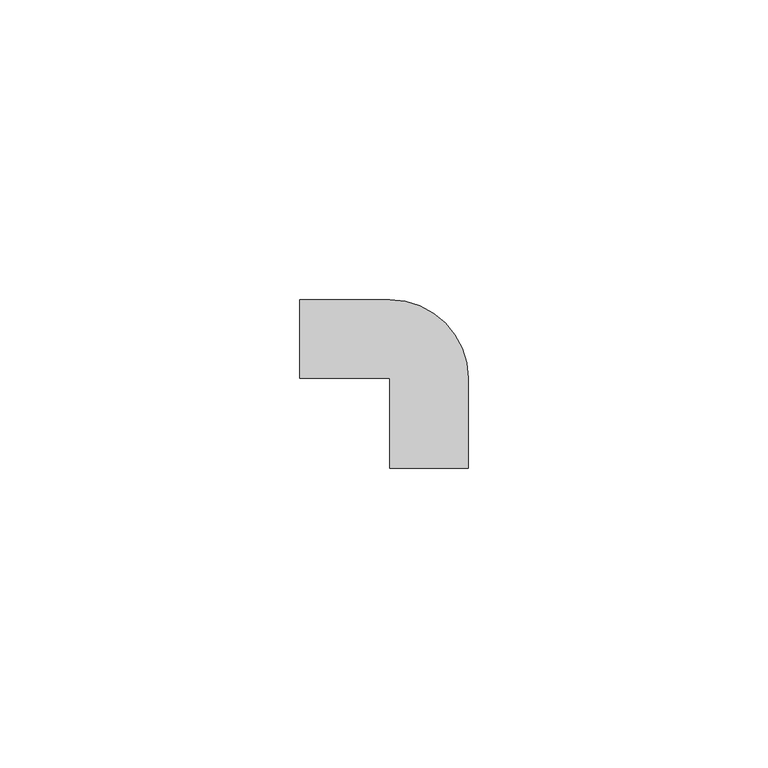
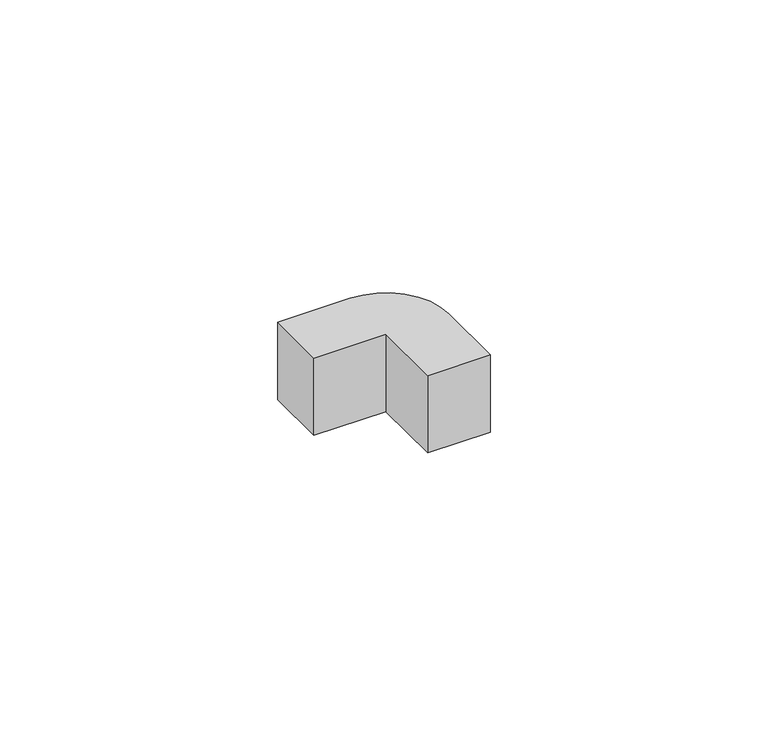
"""IFC4 building model written with IfcOpenShell, lengths in millimetres: proxy geometry, Внешний_угол_КМН : Внешний угол КМН 15х10."""

from ifc_helpers import new_model, si_unit, point, origin, origin_with_axes, origin_2d, place, context, project, spatial, polyline, circle_curve, trimmed, segment, composite_curve, outline, extrude, source, transform, mapped, element, save


def generic_models_2dbfc00d(model_context):
    return source(origin(), model_context, "Body", "SweptSolid", [
        extrude(outline(composite_curve([segment(polyline([(-15.0, 0.0), (-15.0, 13.037256), (0.0, 13.037256)]), True, "CONTINUOUS"), segment(trimmed(circle_curve(origin_2d(), 13.037256), [point((0.0, 13.037256))], [point((13.037256, 0.0))], False, "CARTESIAN"), True, "CONTINUOUS"), segment(polyline([(13.037256, 0.0), (13.037256, -15.0), (0.0, -15.0), (0.0, 0.0), (-15.0, 0.0)]), True, "CONTINUOUS")], self_intersect=False)), origin_with_axes(), (0.0, 0.0, 1.0), 16.9770043),
    ])


if __name__ == "__main__":
    model = new_model("IFC4")
    model_context = context("Model", 3, world=origin())
    ifc_project = project(units=[si_unit("LENGTHUNIT", "METRE", prefix="MILLI")], contexts=[model_context])
    site = spatial("IfcSite", under=ifc_project)
    building = spatial("IfcBuilding", under=site)
    placement = place(None, origin())
    generic_models_shape = generic_models_2dbfc00d(model_context)
    element("IfcBuildingElementProxy", 1, Name="Внешний_угол_КМН : Внешний угол КМН 15х10", ObjectType="Внешний_угол_КМН : Внешний угол КМН 15х10", at=placement, inside=building, context=model_context, shape_type="MappedRepresentation", body=[
        mapped(generic_models_shape, transform((0.0, 0.0, 0.0), x_axis=(1.0, 0.0, 0.0), y_axis=(0.0, 1.0, 0.0), z_axis=(0.0, 0.0, 1.0))),
    ])
    save(model, "model.ifc")
